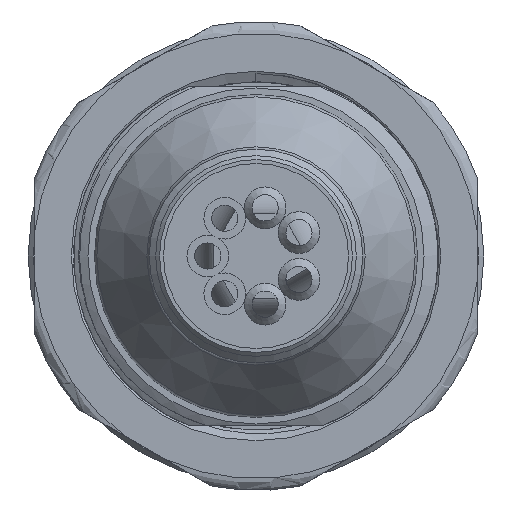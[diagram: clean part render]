
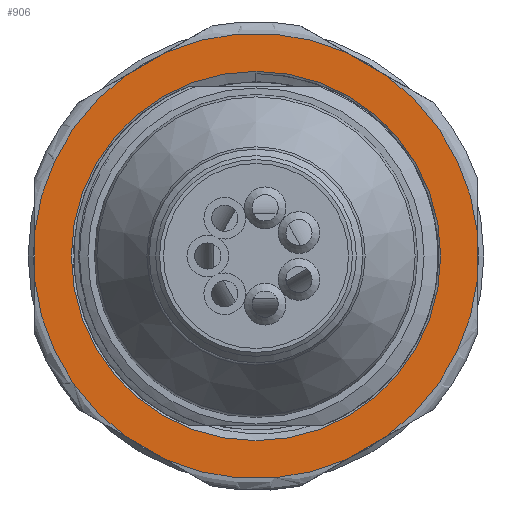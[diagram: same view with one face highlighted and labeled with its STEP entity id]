
A CAD part, left-side view. The second image highlights one B-rep face of the part: STEP entity #906.
In plain terms, the highlighted planar face has unit normal (-1, 0, 0).
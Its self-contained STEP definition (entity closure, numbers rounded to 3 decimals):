
#906=ADVANCED_FACE('',(#1860,#1861),#1247,.T.);
#1247=PLANE('',#5623);
#1320=LINE('',#7244,#1590);
#1321=LINE('',#7249,#1591);
#1322=LINE('',#7253,#1592);
#1323=LINE('',#7257,#1593);
#1324=LINE('',#7261,#1594);
#1325=LINE('',#7265,#1595);
#1590=VECTOR('',#6072,1.);
#1591=VECTOR('',#6075,1.);
#1592=VECTOR('',#6078,1.);
#1593=VECTOR('',#6081,1.);
#1594=VECTOR('',#6084,1.);
#1595=VECTOR('',#6087,1.);
#1860=FACE_BOUND('',#2036,.T.);
#1861=FACE_BOUND('',#2037,.T.);
#2036=EDGE_LOOP('',(#2472));
#2037=EDGE_LOOP('',(#2473,#2474,#2475,#2476,#2477,#2478,#2479,#2480,#2481,
#2482,#2483,#2484));
#2472=ORIENTED_EDGE('',*,*,#4613,.T.);
#2473=ORIENTED_EDGE('',*,*,#4614,.T.);
#2474=ORIENTED_EDGE('',*,*,#4615,.T.);
#2475=ORIENTED_EDGE('',*,*,#4616,.T.);
#2476=ORIENTED_EDGE('',*,*,#4617,.T.);
#2477=ORIENTED_EDGE('',*,*,#4618,.T.);
#2478=ORIENTED_EDGE('',*,*,#4619,.T.);
#2479=ORIENTED_EDGE('',*,*,#4620,.T.);
#2480=ORIENTED_EDGE('',*,*,#4621,.T.);
#2481=ORIENTED_EDGE('',*,*,#4622,.T.);
#2482=ORIENTED_EDGE('',*,*,#4623,.T.);
#2483=ORIENTED_EDGE('',*,*,#4624,.T.);
#2484=ORIENTED_EDGE('',*,*,#4625,.T.);
#4062=VERTEX_POINT('',#7243);
#4063=VERTEX_POINT('',#7245);
#4064=VERTEX_POINT('',#7246);
#4065=VERTEX_POINT('',#7248);
#4066=VERTEX_POINT('',#7250);
#4067=VERTEX_POINT('',#7252);
#4068=VERTEX_POINT('',#7254);
#4069=VERTEX_POINT('',#7256);
#4070=VERTEX_POINT('',#7258);
#4071=VERTEX_POINT('',#7260);
#4072=VERTEX_POINT('',#7262);
#4073=VERTEX_POINT('',#7264);
#4074=VERTEX_POINT('',#7266);
#4613=EDGE_CURVE('',#4062,#4062,#5408,.T.);
#4614=EDGE_CURVE('',#4063,#4064,#1320,.T.);
#4615=EDGE_CURVE('',#4064,#4065,#5409,.T.);
#4616=EDGE_CURVE('',#4065,#4066,#1321,.T.);
#4617=EDGE_CURVE('',#4066,#4067,#5410,.T.);
#4618=EDGE_CURVE('',#4067,#4068,#1322,.T.);
#4619=EDGE_CURVE('',#4068,#4069,#5411,.T.);
#4620=EDGE_CURVE('',#4069,#4070,#1323,.T.);
#4621=EDGE_CURVE('',#4070,#4071,#5412,.T.);
#4622=EDGE_CURVE('',#4071,#4072,#1324,.T.);
#4623=EDGE_CURVE('',#4072,#4073,#5413,.T.);
#4624=EDGE_CURVE('',#4073,#4074,#1325,.T.);
#4625=EDGE_CURVE('',#4074,#4063,#5414,.T.);
#5408=CIRCLE('',#5616,7.087);
#5409=CIRCLE('',#5617,8.547);
#5410=CIRCLE('',#5618,8.547);
#5411=CIRCLE('',#5619,8.547);
#5412=CIRCLE('',#5620,8.547);
#5413=CIRCLE('',#5621,8.547);
#5414=CIRCLE('',#5622,8.547);
#5616=AXIS2_PLACEMENT_3D('',#7242,#6070,#6071);
#5617=AXIS2_PLACEMENT_3D('',#7247,#6073,#6074);
#5618=AXIS2_PLACEMENT_3D('',#7251,#6076,#6077);
#5619=AXIS2_PLACEMENT_3D('',#7255,#6079,#6080);
#5620=AXIS2_PLACEMENT_3D('',#7259,#6082,#6083);
#5621=AXIS2_PLACEMENT_3D('',#7263,#6085,#6086);
#5622=AXIS2_PLACEMENT_3D('',#7267,#6088,#6089);
#5623=AXIS2_PLACEMENT_3D('',#7268,#6090,#6091);
#6070=DIRECTION('',(1.,0.,0.));
#6071=DIRECTION('',(0.,0.,1.));
#6072=DIRECTION('',(0.,0.866,-0.5));
#6073=DIRECTION('',(-1.,0.,0.));
#6074=DIRECTION('',(0.,0.,1.));
#6075=DIRECTION('',(0.,0.,-1.));
#6076=DIRECTION('',(-1.,0.,0.));
#6077=DIRECTION('',(0.,0.,1.));
#6078=DIRECTION('',(0.,-0.866,-0.5));
#6079=DIRECTION('',(-1.,0.,0.));
#6080=DIRECTION('',(0.,0.,1.));
#6081=DIRECTION('',(0.,-0.866,0.5));
#6082=DIRECTION('',(-1.,0.,0.));
#6083=DIRECTION('',(0.,0.,1.));
#6084=DIRECTION('',(0.,0.,1.));
#6085=DIRECTION('',(-1.,0.,0.));
#6086=DIRECTION('',(0.,0.,1.));
#6087=DIRECTION('',(0.,0.866,0.5));
#6088=DIRECTION('',(-1.,0.,0.));
#6089=DIRECTION('',(0.,0.,1.));
#6090=DIRECTION('',(-1.,0.,0.));
#6091=DIRECTION('',(0.,0.,1.));
#7242=CARTESIAN_POINT('',(4.758,-5.392,6.217));
#7243=CARTESIAN_POINT('',(4.758,-5.392,13.304));
#7244=CARTESIAN_POINT('',(4.758,-3.704,15.057));
#7245=CARTESIAN_POINT('',(4.758,-1.917,14.025));
#7246=CARTESIAN_POINT('',(4.758,-0.368,13.131));
#7247=CARTESIAN_POINT('',(4.758,-5.392,6.217));
#7248=CARTESIAN_POINT('',(4.758,3.108,7.111));
#7249=CARTESIAN_POINT('',(4.758,3.108,9.175));
#7250=CARTESIAN_POINT('',(4.758,3.108,5.323));
#7251=CARTESIAN_POINT('',(4.758,-5.392,6.217));
#7252=CARTESIAN_POINT('',(4.758,-0.368,-0.697));
#7253=CARTESIAN_POINT('',(4.758,1.419,0.335));
#7254=CARTESIAN_POINT('',(4.758,-1.917,-1.591));
#7255=CARTESIAN_POINT('',(4.758,-5.392,6.217));
#7256=CARTESIAN_POINT('',(4.758,-8.868,-1.591));
#7257=CARTESIAN_POINT('',(4.758,-7.081,-2.623));
#7258=CARTESIAN_POINT('',(4.758,-10.417,-0.697));
#7259=CARTESIAN_POINT('',(4.758,-5.392,6.217));
#7260=CARTESIAN_POINT('',(4.758,-13.892,5.323));
#7261=CARTESIAN_POINT('',(4.758,-13.892,3.259));
#7262=CARTESIAN_POINT('',(4.758,-13.892,7.111));
#7263=CARTESIAN_POINT('',(4.758,-5.392,6.217));
#7264=CARTESIAN_POINT('',(4.758,-10.417,13.131));
#7265=CARTESIAN_POINT('',(4.758,-12.204,12.099));
#7266=CARTESIAN_POINT('',(4.758,-8.868,14.025));
#7267=CARTESIAN_POINT('',(4.758,-5.392,6.217));
#7268=CARTESIAN_POINT('',(4.758,-5.392,6.217));
